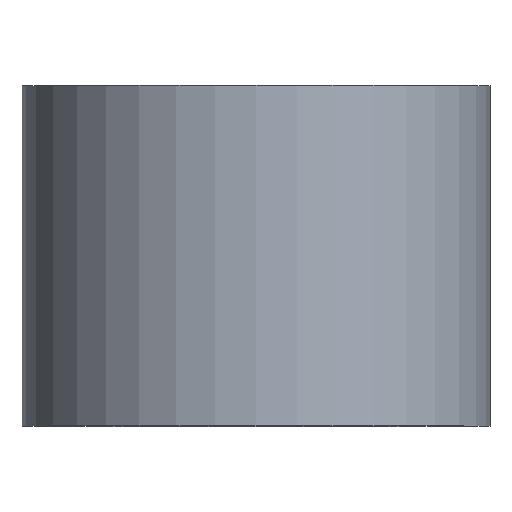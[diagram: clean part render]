
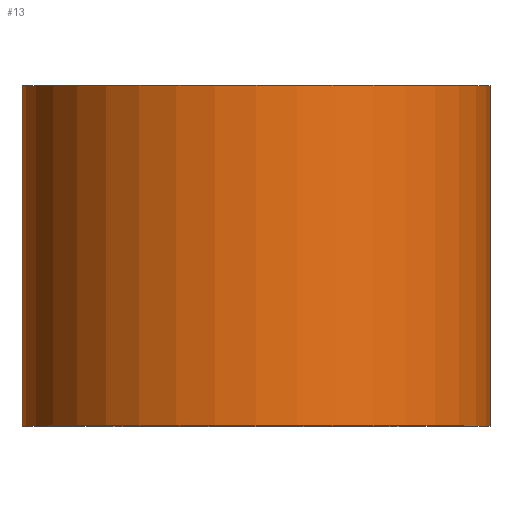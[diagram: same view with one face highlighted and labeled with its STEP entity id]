
A CAD part, top view. The second image highlights one B-rep face of the part: STEP entity #13.
In plain terms, the highlighted cylindrical face has radius 11 mm (diameter 22 mm), a partial arc.
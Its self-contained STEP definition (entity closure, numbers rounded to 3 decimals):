
#2 = EDGE_LOOP ( 'NONE', ( #114, #164, #233, #91 ) ) ;
#3 = DIRECTION ( 'NONE',  ( 0., 1., 0. ) ) ;
#13 = ADVANCED_FACE ( 'NONE', ( #200 ), #14, .T. ) ;
#14 = CYLINDRICAL_SURFACE ( 'NONE', #19, 11. ) ;
#19 = AXIS2_PLACEMENT_3D ( 'NONE', #93, #239, #45 ) ;
#29 = CARTESIAN_POINT ( 'NONE',  ( -11., 0., 0. ) ) ;
#38 = EDGE_CURVE ( 'NONE', #120, #210, #127, .T. ) ;
#39 = CIRCLE ( 'NONE', #123, 11. ) ;
#41 = VERTEX_POINT ( 'NONE', #161 ) ;
#45 = DIRECTION ( 'NONE',  ( -1., 0., 0. ) ) ;
#51 = DIRECTION ( 'NONE',  ( -1., 0., 0. ) ) ;
#52 = CARTESIAN_POINT ( 'NONE',  ( -11., 0., 0. ) ) ;
#82 = AXIS2_PLACEMENT_3D ( 'NONE', #258, #216, #51 ) ;
#90 = EDGE_CURVE ( 'NONE', #160, #41, #245, .T. ) ;
#91 = ORIENTED_EDGE ( 'NONE', *, *, #38, .F. ) ;
#93 = CARTESIAN_POINT ( 'NONE',  ( 0., 0., 0. ) ) ;
#99 = DIRECTION ( 'NONE',  ( 0., 1., 0. ) ) ;
#108 = EDGE_CURVE ( 'NONE', #120, #160, #179, .T. ) ;
#114 = ORIENTED_EDGE ( 'NONE', *, *, #108, .T. ) ;
#117 = VECTOR ( 'NONE', #165, 1000. ) ;
#120 = VERTEX_POINT ( 'NONE', #52 ) ;
#123 = AXIS2_PLACEMENT_3D ( 'NONE', #197, #99, #285 ) ;
#127 = LINE ( 'NONE', #29, #117 ) ;
#160 = VERTEX_POINT ( 'NONE', #222 ) ;
#161 = CARTESIAN_POINT ( 'NONE',  ( 11., 16., 0. ) ) ;
#164 = ORIENTED_EDGE ( 'NONE', *, *, #90, .T. ) ;
#165 = DIRECTION ( 'NONE',  ( 0., 1., 0. ) ) ;
#168 = CARTESIAN_POINT ( 'NONE',  ( -11., 16., 0. ) ) ;
#179 = CIRCLE ( 'NONE', #82, 11. ) ;
#197 = CARTESIAN_POINT ( 'NONE',  ( 0., 16., 0. ) ) ;
#200 = FACE_OUTER_BOUND ( 'NONE', #2, .T. ) ;
#210 = VERTEX_POINT ( 'NONE', #168 ) ;
#214 = CARTESIAN_POINT ( 'NONE',  ( 11., 0., 0. ) ) ;
#216 = DIRECTION ( 'NONE',  ( 0., 1., 0. ) ) ;
#222 = CARTESIAN_POINT ( 'NONE',  ( 11., 0., 0. ) ) ;
#232 = EDGE_CURVE ( 'NONE', #210, #41, #39, .T. ) ;
#233 = ORIENTED_EDGE ( 'NONE', *, *, #232, .F. ) ;
#239 = DIRECTION ( 'NONE',  ( 0., 1., 0. ) ) ;
#245 = LINE ( 'NONE', #214, #276 ) ;
#258 = CARTESIAN_POINT ( 'NONE',  ( 0., 0., 0. ) ) ;
#276 = VECTOR ( 'NONE', #3, 1000. ) ;
#285 = DIRECTION ( 'NONE',  ( -1., 0., 0. ) ) ;
